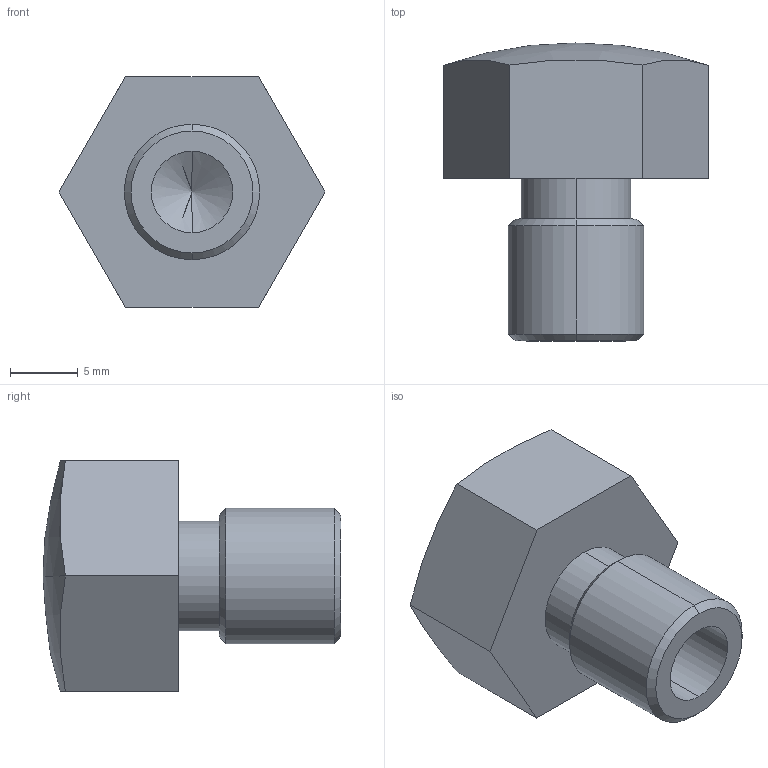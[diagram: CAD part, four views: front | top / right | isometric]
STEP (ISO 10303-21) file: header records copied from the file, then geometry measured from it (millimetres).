
FILE_DESCRIPTION (( 'STEP AP214' ), '1' );
FILE_NAME ('SP-16 contact bolt.STEP', '2021-10-19T00:34:02', ( '' ), ( '' ), 'SwSTEP 2.0', 'SolidWorks 2016', '' );
FILE_SCHEMA (( 'AUTOMOTIVE_DESIGN' ));
Length unit declared in the file: millimetre
Products named in the file (1): SP-16 contact bolt
Bounding box: 19.63 x 22 x 17 mm (x, y, z)
Volume: 2985.9 mm3; surface area: 1535.9 mm2
Topology: 1 solids, 1 shells, 23 faces, 50 edges, 30 vertices
Faces by surface type: plane 9, cone 6, cylinder 6, sphere 2
Entity records: 674 total; most frequent: DIRECTION 120, CARTESIAN_POINT 102, ORIENTED_EDGE 96, EDGE_CURVE 48, AXIS2_PLACEMENT_3D 48, VERTEX_POINT 30, EDGE_LOOP 26, LINE 24
